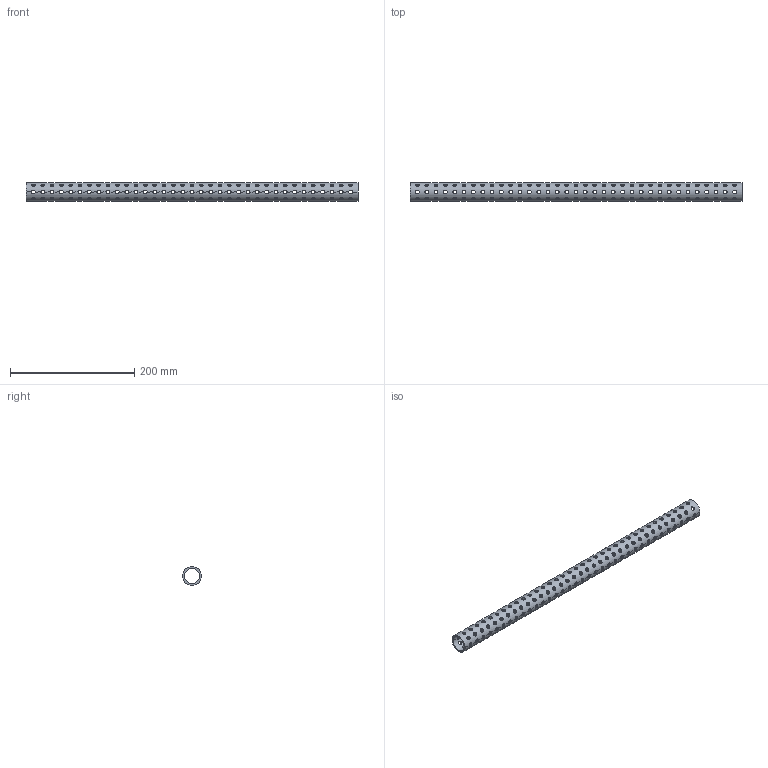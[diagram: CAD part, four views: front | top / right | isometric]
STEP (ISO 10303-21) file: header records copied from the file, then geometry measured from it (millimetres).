
FILE_DESCRIPTION(('STEP AP214'),'1');
FILE_NAME('EGT006_xxxixxx_ST_ROHR_30x2_5.CATPart.stp','2015-09-14T13:03:52',('3D-Tool'),(' '),'Spatial InterOp 3D',' ',' ');
FILE_SCHEMA(('automotive_design'));
Length unit declared in the file: millimetre
Products named in the file (1): EGT006_xxxixxx_ST_ROHR_30x2_5|Eigenfertigung- oder Kaufteil|RectPattern.1
Bounding box: 534 x 30 x 30 mm (x, y, z)
Volume: 95422.6 mm3; surface area: 90125.9 mm2
Topology: 1 solids, 1 shells, 1126 faces, 3512 edges, 2248 vertices
Faces by surface type: cylinder 1124, plane 2
Entity records: 79831 total; most frequent: CARTESIAN_POINT 43217, ORIENTED_EDGE 7024, DIRECTION 3534, EDGE_CURVE 3512, VERTEX_POINT 2248, B_SPLINE_CURVE_WITH_KNOTS 2240, EDGE_LOOP 1548, LINE 1264
